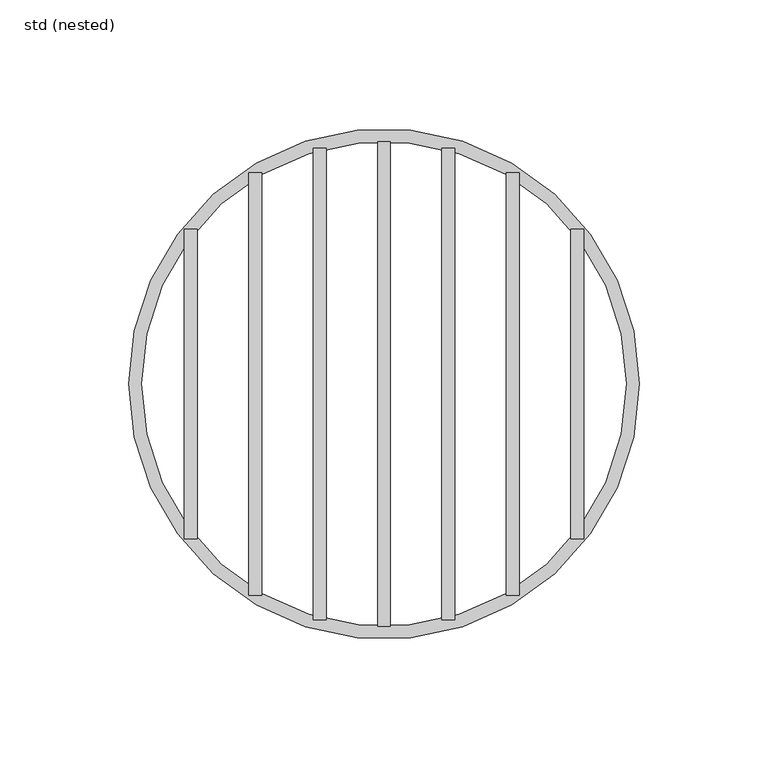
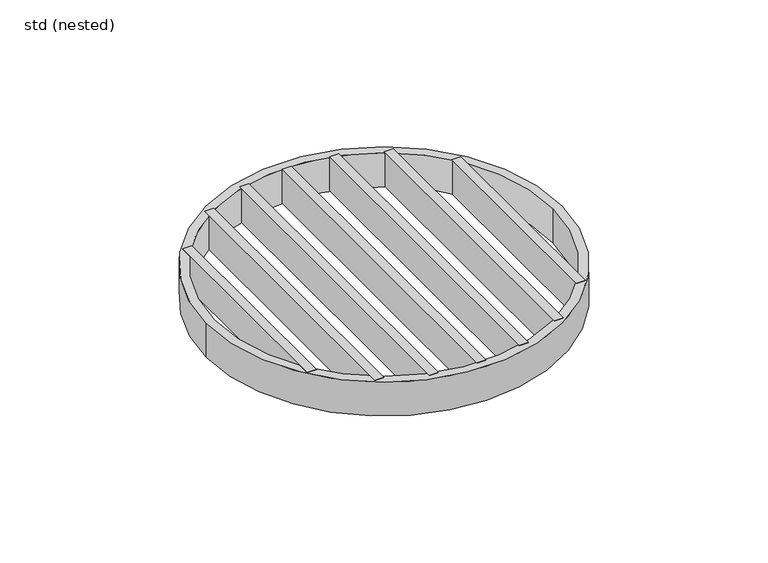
"""IFC4 building model written with IfcOpenShell, lengths in millimetres: sanitary terminal geometry, ZZZ_do not use_PF_ST_UN_round grating for hygienic gully_ACO : std (nested)."""

from ifc_helpers import new_model, si_unit, point, frame, origin, origin_2d, place, context, project, spatial, polyline, circle_curve, trimmed, segment, composite_curve, outline, extrude, source, transform, mapped, element, save


def std_nested_2204cd7f(model_context):
    return source(origin(), model_context, "Body", "SweptSolid", [
        extrude(outline(polyline([(77.5, 60.0), (77.5, -60.0), (72.5, -60.0), (72.5, 60.0), (77.5, 60.0)])), frame((0.0, 0.0, -20.0), z_axis=(0.0, 0.0, 1.0), x_axis=(1.0, 0.0, 0.0)), (0.0, 0.0, 1.0), 20.0),
        extrude(outline(polyline([(52.5, 82.0), (52.5, -82.0), (47.5, -82.0), (47.5, 82.0), (52.5, 82.0)])), frame((0.0, 0.0, -20.0), z_axis=(0.0, 0.0, 1.0), x_axis=(1.0, 0.0, 0.0)), (0.0, 0.0, 1.0), 20.0),
        extrude(outline(polyline([(27.5, 91.5), (27.5, -91.5), (22.5, -91.5), (22.5, 91.5), (27.5, 91.5)])), frame((0.0, 0.0, -20.0), z_axis=(0.0, 0.0, 1.0), x_axis=(1.0, 0.0, 0.0)), (0.0, 0.0, 1.0), 20.0),
        extrude(outline(polyline([(-72.5, 60.0), (-72.5, -60.0), (-77.5, -60.0), (-77.5, 60.0), (-72.5, 60.0)])), frame((0.0, 0.0, -20.0), z_axis=(0.0, 0.0, 1.0), x_axis=(1.0, 0.0, 0.0)), (0.0, 0.0, 1.0), 20.0),
        extrude(outline(polyline([(-47.5, 82.0), (-47.5, -82.0), (-52.5, -82.0), (-52.5, 82.0), (-47.5, 82.0)])), frame((0.0, 0.0, -20.0), z_axis=(0.0, 0.0, 1.0), x_axis=(1.0, 0.0, 0.0)), (0.0, 0.0, 1.0), 20.0),
        extrude(outline(polyline([(-22.5, 91.5), (-22.5, -91.5), (-27.5, -91.5), (-27.5, 91.5), (-22.5, 91.5)])), frame((0.0, 0.0, -20.0), z_axis=(0.0, 0.0, 1.0), x_axis=(1.0, 0.0, 0.0)), (0.0, 0.0, 1.0), 20.0),
        extrude(outline(polyline([(2.5, 94.0), (2.5, -94.0), (-2.5, -94.0), (-2.5, 94.0), (2.5, 94.0)])), frame((0.0, 0.0, -20.0), z_axis=(0.0, 0.0, 1.0), x_axis=(1.0, 0.0, 0.0)), (0.0, 0.0, 1.0), 20.0),
        extrude(outline(composite_curve([segment(trimmed(circle_curve(origin_2d(), 99.0), [point((-99.0, 0.0))], [point((99.0, 0.0))], False, "CARTESIAN"), True, "CONTINUOUS"), segment(trimmed(circle_curve(origin_2d(), 99.0), [point((99.0, 0.0))], [point((-99.0, 0.0))], False, "CARTESIAN"), True, "CONTINUOUS")], self_intersect=False), holes=[composite_curve([segment(trimmed(circle_curve(origin_2d(), 94.0), [point((-94.0, 0.0))], [point((94.0, 0.0))], True, "CARTESIAN"), True, "CONTINUOUS"), segment(trimmed(circle_curve(origin_2d(), 94.0), [point((94.0, 0.0))], [point((-94.0, 0.0))], True, "CARTESIAN"), True, "CONTINUOUS")], self_intersect=False)]), frame((0.0, 0.0, -20.0), z_axis=(0.0, 0.0, 1.0), x_axis=(1.0, 0.0, 0.0)), (0.0, 0.0, 1.0), 20.0),
    ])


if __name__ == "__main__":
    model = new_model("IFC4")
    model_context = context("Model", 3, world=origin())
    ifc_project = project(units=[si_unit("LENGTHUNIT", "METRE", prefix="MILLI")], contexts=[model_context])
    site = spatial("IfcSite", under=ifc_project)
    building = spatial("IfcBuilding", under=site)
    placement = place(None, origin())
    std_nested_shape = std_nested_2204cd7f(model_context)
    element("IfcSanitaryTerminal", 1, ObjectType="ZZZ_do not use_PF_ST_UN_round grating for hygienic gully_ACO : std (nested)", at=placement, inside=building, context=model_context, shape_type="MappedRepresentation", body=[
        mapped(std_nested_shape, transform((0.0, 0.0, 0.0), x_axis=(1.0, 0.0, 0.0), y_axis=(0.0, 1.0, 0.0), z_axis=(0.0, 0.0, 1.0))),
    ])
    save(model, "model.ifc")
